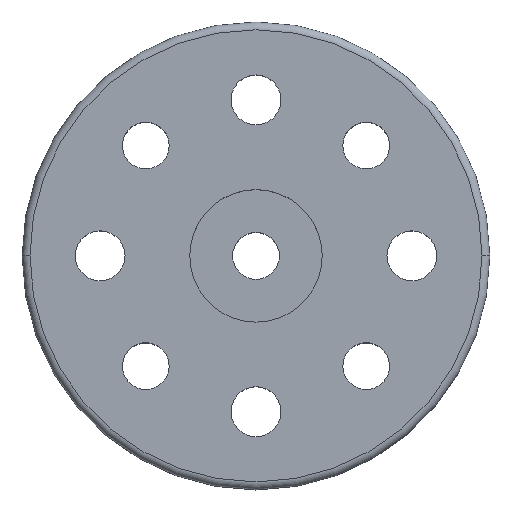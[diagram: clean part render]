
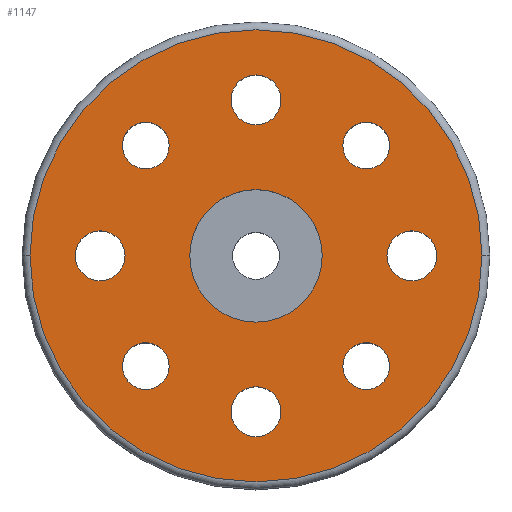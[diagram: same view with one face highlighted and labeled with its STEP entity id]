
A CAD part, top view. The second image highlights one B-rep face of the part: STEP entity #1147.
In plain terms, the highlighted planar face has unit normal (0, 0, 1).
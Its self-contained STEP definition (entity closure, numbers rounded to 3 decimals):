
#39=AXIS2_PLACEMENT_3D('Circle Axis2P3D',#37,#38,$) ;
#74=AXIS2_PLACEMENT_3D('Circle Axis2P3D',#72,#73,$) ;
#393=AXIS2_PLACEMENT_3D('Circle Axis2P3D',#391,#392,$) ;
#412=AXIS2_PLACEMENT_3D('Circle Axis2P3D',#410,#411,$) ;
#436=AXIS2_PLACEMENT_3D('Circle Axis2P3D',#434,#435,$) ;
#455=AXIS2_PLACEMENT_3D('Circle Axis2P3D',#453,#454,$) ;
#479=AXIS2_PLACEMENT_3D('Circle Axis2P3D',#477,#478,$) ;
#498=AXIS2_PLACEMENT_3D('Circle Axis2P3D',#496,#497,$) ;
#522=AXIS2_PLACEMENT_3D('Circle Axis2P3D',#520,#521,$) ;
#541=AXIS2_PLACEMENT_3D('Circle Axis2P3D',#539,#540,$) ;
#565=AXIS2_PLACEMENT_3D('Circle Axis2P3D',#563,#564,$) ;
#584=AXIS2_PLACEMENT_3D('Circle Axis2P3D',#582,#583,$) ;
#601=AXIS2_PLACEMENT_3D('Circle Axis2P3D',#599,#600,$) ;
#636=AXIS2_PLACEMENT_3D('Circle Axis2P3D',#634,#635,$) ;
#658=AXIS2_PLACEMENT_3D('Circle Axis2P3D',#656,#657,$) ;
#693=AXIS2_PLACEMENT_3D('Circle Axis2P3D',#691,#692,$) ;
#715=AXIS2_PLACEMENT_3D('Circle Axis2P3D',#713,#714,$) ;
#750=AXIS2_PLACEMENT_3D('Circle Axis2P3D',#748,#749,$) ;
#1091=AXIS2_PLACEMENT_3D('Plane Axis2P3D',#1088,#1089,#1090) ;
#1095=AXIS2_PLACEMENT_3D('Circle Axis2P3D',#1093,#1094,$) ;
#1104=AXIS2_PLACEMENT_3D('Circle Axis2P3D',#1102,#1103,$) ;
#37=CARTESIAN_POINT('Axis2P3D Location',(-7.071,-7.071,12.)) ;
#41=CARTESIAN_POINT('Vertex',(-5.571,-7.071,12.)) ;
#43=CARTESIAN_POINT('Vertex',(-8.571,-7.071,12.)) ;
#72=CARTESIAN_POINT('Axis2P3D Location',(-7.071,-7.071,12.)) ;
#388=CARTESIAN_POINT('Vertex',(1.6,-10.,12.)) ;
#391=CARTESIAN_POINT('Axis2P3D Location',(0.,-10.,12.)) ;
#395=CARTESIAN_POINT('Vertex',(-1.6,-10.,12.)) ;
#410=CARTESIAN_POINT('Axis2P3D Location',(0.,-10.,12.)) ;
#431=CARTESIAN_POINT('Vertex',(1.6,10.,12.)) ;
#434=CARTESIAN_POINT('Axis2P3D Location',(0.,10.,12.)) ;
#438=CARTESIAN_POINT('Vertex',(-1.6,10.,12.)) ;
#453=CARTESIAN_POINT('Axis2P3D Location',(0.,10.,12.)) ;
#474=CARTESIAN_POINT('Vertex',(11.6,0.,12.)) ;
#477=CARTESIAN_POINT('Axis2P3D Location',(10.,0.,12.)) ;
#481=CARTESIAN_POINT('Vertex',(8.4,0.,12.)) ;
#496=CARTESIAN_POINT('Axis2P3D Location',(10.,0.,12.)) ;
#517=CARTESIAN_POINT('Vertex',(-8.4,0.,12.)) ;
#520=CARTESIAN_POINT('Axis2P3D Location',(-10.,0.,12.)) ;
#524=CARTESIAN_POINT('Vertex',(-11.6,0.,12.)) ;
#539=CARTESIAN_POINT('Axis2P3D Location',(-10.,0.,12.)) ;
#560=CARTESIAN_POINT('Vertex',(-4.25,0.,12.)) ;
#563=CARTESIAN_POINT('Axis2P3D Location',(0.,0.,12.)) ;
#567=CARTESIAN_POINT('Vertex',(4.25,0.,12.)) ;
#582=CARTESIAN_POINT('Axis2P3D Location',(0.,0.,12.)) ;
#599=CARTESIAN_POINT('Axis2P3D Location',(7.071,7.071,12.)) ;
#603=CARTESIAN_POINT('Vertex',(8.571,7.071,12.)) ;
#605=CARTESIAN_POINT('Vertex',(5.571,7.071,12.)) ;
#634=CARTESIAN_POINT('Axis2P3D Location',(7.071,7.071,12.)) ;
#656=CARTESIAN_POINT('Axis2P3D Location',(-7.071,7.071,12.)) ;
#660=CARTESIAN_POINT('Vertex',(-5.571,7.071,12.)) ;
#662=CARTESIAN_POINT('Vertex',(-8.571,7.071,12.)) ;
#691=CARTESIAN_POINT('Axis2P3D Location',(-7.071,7.071,12.)) ;
#713=CARTESIAN_POINT('Axis2P3D Location',(7.071,-7.071,12.)) ;
#717=CARTESIAN_POINT('Vertex',(8.571,-7.071,12.)) ;
#719=CARTESIAN_POINT('Vertex',(5.571,-7.071,12.)) ;
#748=CARTESIAN_POINT('Axis2P3D Location',(7.071,-7.071,12.)) ;
#1088=CARTESIAN_POINT('Axis2P3D Location',(0.,0.,12.)) ;
#1093=CARTESIAN_POINT('Axis2P3D Location',(0.,0.,12.)) ;
#1097=CARTESIAN_POINT('Vertex',(14.5,0.,12.)) ;
#1099=CARTESIAN_POINT('Vertex',(-14.5,0.,12.)) ;
#1102=CARTESIAN_POINT('Axis2P3D Location',(0.,0.,12.)) ;
#38=DIRECTION('Axis2P3D Direction',(0.,0.,-1.)) ;
#73=DIRECTION('Axis2P3D Direction',(0.,0.,-1.)) ;
#392=DIRECTION('Axis2P3D Direction',(0.,0.,-1.)) ;
#411=DIRECTION('Axis2P3D Direction',(0.,0.,-1.)) ;
#435=DIRECTION('Axis2P3D Direction',(0.,0.,-1.)) ;
#454=DIRECTION('Axis2P3D Direction',(0.,0.,-1.)) ;
#478=DIRECTION('Axis2P3D Direction',(0.,0.,-1.)) ;
#497=DIRECTION('Axis2P3D Direction',(0.,0.,-1.)) ;
#521=DIRECTION('Axis2P3D Direction',(0.,0.,-1.)) ;
#540=DIRECTION('Axis2P3D Direction',(0.,0.,-1.)) ;
#564=DIRECTION('Axis2P3D Direction',(0.,0.,1.)) ;
#583=DIRECTION('Axis2P3D Direction',(0.,0.,1.)) ;
#600=DIRECTION('Axis2P3D Direction',(0.,0.,-1.)) ;
#635=DIRECTION('Axis2P3D Direction',(0.,0.,-1.)) ;
#657=DIRECTION('Axis2P3D Direction',(0.,0.,-1.)) ;
#692=DIRECTION('Axis2P3D Direction',(0.,0.,-1.)) ;
#714=DIRECTION('Axis2P3D Direction',(0.,0.,-1.)) ;
#749=DIRECTION('Axis2P3D Direction',(0.,0.,-1.)) ;
#1089=DIRECTION('Axis2P3D Direction',(0.,0.,1.)) ;
#1090=DIRECTION('Axis2P3D XDirection',(1.,0.,0.)) ;
#1094=DIRECTION('Axis2P3D Direction',(0.,0.,1.)) ;
#1103=DIRECTION('Axis2P3D Direction',(0.,0.,1.)) ;
#1108=ORIENTED_EDGE('',*,*,#1101,.T.) ;
#1109=ORIENTED_EDGE('',*,*,#1106,.T.) ;
#1112=ORIENTED_EDGE('',*,*,#586,.F.) ;
#1113=ORIENTED_EDGE('',*,*,#569,.F.) ;
#1116=ORIENTED_EDGE('',*,*,#543,.F.) ;
#1117=ORIENTED_EDGE('',*,*,#526,.F.) ;
#1120=ORIENTED_EDGE('',*,*,#500,.F.) ;
#1121=ORIENTED_EDGE('',*,*,#483,.F.) ;
#1124=ORIENTED_EDGE('',*,*,#457,.F.) ;
#1125=ORIENTED_EDGE('',*,*,#440,.F.) ;
#1128=ORIENTED_EDGE('',*,*,#414,.F.) ;
#1129=ORIENTED_EDGE('',*,*,#397,.F.) ;
#1132=ORIENTED_EDGE('',*,*,#76,.F.) ;
#1133=ORIENTED_EDGE('',*,*,#45,.F.) ;
#1136=ORIENTED_EDGE('',*,*,#752,.F.) ;
#1137=ORIENTED_EDGE('',*,*,#721,.F.) ;
#1140=ORIENTED_EDGE('',*,*,#695,.F.) ;
#1141=ORIENTED_EDGE('',*,*,#664,.F.) ;
#1144=ORIENTED_EDGE('',*,*,#638,.F.) ;
#1145=ORIENTED_EDGE('',*,*,#607,.F.) ;
#1114=FACE_BOUND('',#1111,.T.) ;
#1118=FACE_BOUND('',#1115,.T.) ;
#1122=FACE_BOUND('',#1119,.T.) ;
#1126=FACE_BOUND('',#1123,.T.) ;
#1130=FACE_BOUND('',#1127,.T.) ;
#1134=FACE_BOUND('',#1131,.T.) ;
#1138=FACE_BOUND('',#1135,.T.) ;
#1142=FACE_BOUND('',#1139,.T.) ;
#1146=FACE_BOUND('',#1143,.T.) ;
#1147=ADVANCED_FACE('\X2\96F64EF651E04F554F53\X0\',(#1110,#1114,#1118,#1122,#1126,#1130,#1134,#1138,#1142,#1146),#1092,.T.) ;
#40=CIRCLE('generated circle',#39,1.5) ;
#75=CIRCLE('generated circle',#74,1.5) ;
#394=CIRCLE('generated circle',#393,1.6) ;
#413=CIRCLE('generated circle',#412,1.6) ;
#437=CIRCLE('generated circle',#436,1.6) ;
#456=CIRCLE('generated circle',#455,1.6) ;
#480=CIRCLE('generated circle',#479,1.6) ;
#499=CIRCLE('generated circle',#498,1.6) ;
#523=CIRCLE('generated circle',#522,1.6) ;
#542=CIRCLE('generated circle',#541,1.6) ;
#566=CIRCLE('generated circle',#565,4.25) ;
#585=CIRCLE('generated circle',#584,4.25) ;
#602=CIRCLE('generated circle',#601,1.5) ;
#637=CIRCLE('generated circle',#636,1.5) ;
#659=CIRCLE('generated circle',#658,1.5) ;
#694=CIRCLE('generated circle',#693,1.5) ;
#716=CIRCLE('generated circle',#715,1.5) ;
#751=CIRCLE('generated circle',#750,1.5) ;
#1096=CIRCLE('generated circle',#1095,14.5) ;
#1105=CIRCLE('generated circle',#1104,14.5) ;
#45=EDGE_CURVE('',#42,#44,#40,.F.) ;
#76=EDGE_CURVE('',#44,#42,#75,.F.) ;
#397=EDGE_CURVE('',#389,#396,#394,.F.) ;
#414=EDGE_CURVE('',#396,#389,#413,.F.) ;
#440=EDGE_CURVE('',#432,#439,#437,.F.) ;
#457=EDGE_CURVE('',#439,#432,#456,.F.) ;
#483=EDGE_CURVE('',#475,#482,#480,.F.) ;
#500=EDGE_CURVE('',#482,#475,#499,.F.) ;
#526=EDGE_CURVE('',#518,#525,#523,.F.) ;
#543=EDGE_CURVE('',#525,#518,#542,.F.) ;
#569=EDGE_CURVE('',#561,#568,#566,.T.) ;
#586=EDGE_CURVE('',#568,#561,#585,.T.) ;
#607=EDGE_CURVE('',#604,#606,#602,.F.) ;
#638=EDGE_CURVE('',#606,#604,#637,.F.) ;
#664=EDGE_CURVE('',#661,#663,#659,.F.) ;
#695=EDGE_CURVE('',#663,#661,#694,.F.) ;
#721=EDGE_CURVE('',#718,#720,#716,.F.) ;
#752=EDGE_CURVE('',#720,#718,#751,.F.) ;
#1101=EDGE_CURVE('',#1098,#1100,#1096,.T.) ;
#1106=EDGE_CURVE('',#1100,#1098,#1105,.T.) ;
#1107=EDGE_LOOP('',(#1108,#1109)) ;
#1111=EDGE_LOOP('',(#1112,#1113)) ;
#1115=EDGE_LOOP('',(#1116,#1117)) ;
#1119=EDGE_LOOP('',(#1120,#1121)) ;
#1123=EDGE_LOOP('',(#1124,#1125)) ;
#1127=EDGE_LOOP('',(#1128,#1129)) ;
#1131=EDGE_LOOP('',(#1132,#1133)) ;
#1135=EDGE_LOOP('',(#1136,#1137)) ;
#1139=EDGE_LOOP('',(#1140,#1141)) ;
#1143=EDGE_LOOP('',(#1144,#1145)) ;
#1110=FACE_OUTER_BOUND('',#1107,.T.) ;
#1092=PLANE('',#1091) ;
#42=VERTEX_POINT('',#41) ;
#44=VERTEX_POINT('',#43) ;
#389=VERTEX_POINT('',#388) ;
#396=VERTEX_POINT('',#395) ;
#432=VERTEX_POINT('',#431) ;
#439=VERTEX_POINT('',#438) ;
#475=VERTEX_POINT('',#474) ;
#482=VERTEX_POINT('',#481) ;
#518=VERTEX_POINT('',#517) ;
#525=VERTEX_POINT('',#524) ;
#561=VERTEX_POINT('',#560) ;
#568=VERTEX_POINT('',#567) ;
#604=VERTEX_POINT('',#603) ;
#606=VERTEX_POINT('',#605) ;
#661=VERTEX_POINT('',#660) ;
#663=VERTEX_POINT('',#662) ;
#718=VERTEX_POINT('',#717) ;
#720=VERTEX_POINT('',#719) ;
#1098=VERTEX_POINT('',#1097) ;
#1100=VERTEX_POINT('',#1099) ;
